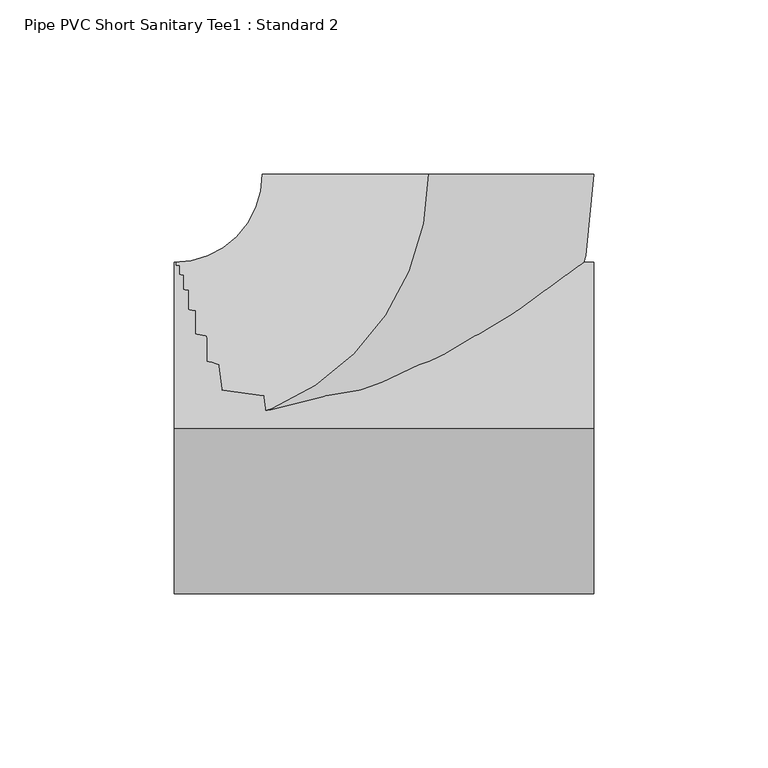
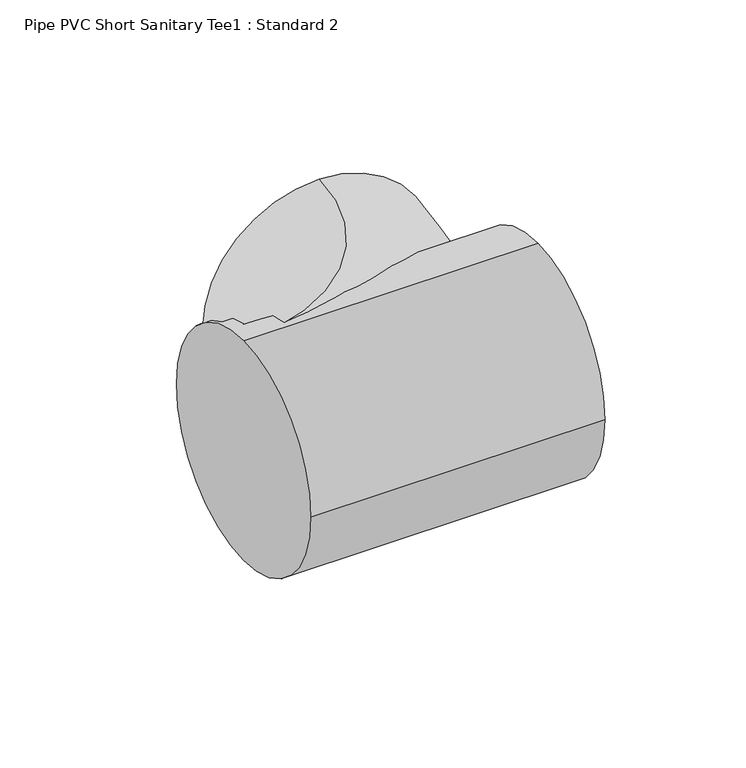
"""IFC4 building model written with IfcOpenShell, lengths in millimetres: pipe fitting geometry, Pipe PVC Short Sanitary Tee1 : Standard 2."""

from ifc_helpers import new_model, si_unit, point, frame, origin, origin_2d, place, context, project, spatial, circle_curve, ellipse_curve, trimmed, segment, composite_curve, outline, extrude, source, transform, mapped, element, save
from ifc_brep_helpers import plane_surface, revolved_surface, advanced_brep


def pipe_pvc_short_sanitary_tee1_standard_2_ace3c86c(model_context):
    return source(origin(), model_context, "Body", "SolidModel", [
        extrude(outline(composite_curve([segment(trimmed(circle_curve(origin_2d(), 47.625), [point((0.0, 47.625))], [point((47.625, 0.0))], False, "CARTESIAN"), True, "CONTINUOUS"), segment(trimmed(circle_curve(origin_2d(), 47.625), [point((47.625, 0.0))], [point((0.0, -47.625))], False, "CARTESIAN"), True, "CONTINUOUS"), segment(trimmed(circle_curve(origin_2d(), 47.625), [point((0.0, -47.625))], [point((-47.625, 0.0))], False, "CARTESIAN"), True, "CONTINUOUS"), segment(trimmed(circle_curve(origin_2d(), 47.625), [point((-47.625, 0.0))], [point((0.0, 47.625))], False, "CARTESIAN"), True, "CONTINUOUS")], self_intersect=False)), frame((-73.017082, 0.0, 0.0), z_axis=(1.0, 0.0, 0.0), x_axis=(0.0, 1.0, 0.0)), (0.0, 0.0, 1.0), 120.6499996),
        advanced_brep(
        [(-73.017082, 0.0, 47.625), (-73.017082, 47.625, 0.0), (-73.017082, 0.0, -47.625), (-73.017082, -47.625, 0.0), (0.0079176, 73.0170816, 47.625), (47.6329173, 73.0119174, 0.0), (0.0079176, 73.0170816, -47.625), (-47.6170822, 73.0222458, 0.0)],
        [
            (0, 1, circle_curve(frame((-73.017082, 0.0, 0.0), z_axis=(-1.0, 0.0, 0.0), x_axis=(0.0, 1.0, 0.0)), 47.625)),
            (1, 2, circle_curve(frame((-73.017082, 0.0, 0.0), z_axis=(-1.0, 0.0, 0.0), x_axis=(0.0, 1.0, 0.0)), 47.625)),
            (2, 3, circle_curve(frame((-73.017082, 0.0, 0.0), z_axis=(-1.0, 0.0, 0.0), x_axis=(0.0, 1.0, 0.0)), 47.625)),
            (3, 0, circle_curve(frame((-73.017082, 0.0, 0.0), z_axis=(-1.0, 0.0, 0.0), x_axis=(0.0, 1.0, 0.0)), 47.625)),
            (4, 5, circle_curve(frame((0.0079176, 73.0170816, 0.0), z_axis=(0.00010843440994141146, 0.9999999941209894, 0.0), x_axis=(-0.9999999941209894, 0.00010843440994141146, 0.0)), 47.625)),
            (5, 6, circle_curve(frame((0.0079176, 73.0170816, 0.0), z_axis=(0.00010843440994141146, 0.9999999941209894, 0.0), x_axis=(-0.9999999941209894, 0.00010843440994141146, 0.0)), 47.625)),
            (6, 7, circle_curve(frame((0.0079176, 73.0170816, 0.0), z_axis=(0.00010843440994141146, 0.9999999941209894, 0.0), x_axis=(-0.9999999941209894, 0.00010843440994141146, 0.0)), 47.625)),
            (7, 4, circle_curve(frame((0.0079176, 73.0170816, 0.0), z_axis=(0.00010843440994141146, 0.9999999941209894, 0.0), x_axis=(-0.9999999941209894, 0.00010843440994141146, 0.0)), 47.625)),
            (7, 1, circle_curve(frame((-73.017082, 73.025, 0.0), z_axis=(0.0, 0.0, -1.0), x_axis=(0.0, -1.0, 0.0)), 25.4)),
            (0, 4, circle_curve(frame((-73.017082, 73.025, 47.625), z_axis=(0.0, 0.0, 1.0), x_axis=(0.0, -1.0, 0.0)), 73.025)),
            (6, 2, circle_curve(frame((-73.017082, 73.025, -47.625), z_axis=(0.0, 0.0, -1.0), x_axis=(0.0, -1.0, 0.0)), 73.025)),
            (5, 3, circle_curve(frame((-73.017082, 73.025, 0.0), z_axis=(0.0, 0.0, -1.0), x_axis=(0.0, -1.0, 0.0)), 120.65)),
        ],
        [
            plane_surface(frame((-73.017082, 0.0, 0.0), z_axis=(-1.0, 0.0, 0.0), x_axis=(0.0, 0.0, 1.0))),
            plane_surface(frame((0.0079176, 73.0170816, 0.0), z_axis=(0.00010843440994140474, 0.9999999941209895, 0.0), x_axis=(0.0, 0.0, 1.0))),
            revolved_surface(trimmed(ellipse_curve(frame((-73.017082, 0.0, 0.0), z_axis=(-1.0, 0.0, 0.0), x_axis=(0.0, 1.0, 0.0)), 47.625, 47.625), [point((-73.017082, 0.0, 47.625))], [point((-73.017082, 47.625, 0.0))], True, "CARTESIAN"), (-73.017082, 73.025, 0.0), (0.0, 0.0, 1.0)),
            revolved_surface(trimmed(ellipse_curve(frame((-73.017082, 0.0, 0.0), z_axis=(-1.0, 0.0, 0.0), x_axis=(0.0, 1.0, 0.0)), 47.625, 47.625), [point((-73.017082, 47.625, 0.0))], [point((-73.017082, 0.0, -47.625))], True, "CARTESIAN"), (-73.017082, 73.025, 0.0), (0.0, 0.0, 1.0)),
            revolved_surface(trimmed(ellipse_curve(frame((-73.017082, 0.0, 0.0), z_axis=(-1.0, 0.0, 0.0), x_axis=(0.0, 1.0, 0.0)), 47.625, 47.625), [point((-73.017082, 0.0, -47.625))], [point((-73.017082, -47.625, 0.0))], True, "CARTESIAN"), (-73.017082, 73.025, 0.0), (0.0, 0.0, 1.0)),
            revolved_surface(trimmed(ellipse_curve(frame((-73.017082, 0.0, 0.0), z_axis=(-1.0, 0.0, 0.0), x_axis=(0.0, 1.0, 0.0)), 47.625, 47.625), [point((-73.017082, -47.625, 0.0))], [point((-73.017082, 0.0, 47.625))], True, "CARTESIAN"), (-73.017082, 73.025, 0.0), (0.0, 0.0, 1.0)),
        ],
        [
            (0, [[1, 2, 3, 4]]),
            (1, [[5, 6, 7, 8]]),
            (2, [[9, -1, 10, -8]]),
            (3, [[11, -2, -9, -7]]),
            (4, [[12, -3, -11, -6]]),
            (5, [[-10, -4, -12, -5]]),
        ],
    ),
        advanced_brep(
        [(-73.017082, 0.0, 47.625), (-73.017082, 47.625, 0.0), (-73.017082, 0.0, -47.625), (-73.017082, -47.625, 0.0), (0.0079176, 73.0170816, 47.625), (47.6329173, 73.0119174, 0.0), (0.0079176, 73.0170816, -47.625), (-47.6170822, 73.0222458, 0.0)],
        [
            (0, 1, circle_curve(frame((-73.017082, 0.0, 0.0), z_axis=(-1.0, 0.0, 0.0), x_axis=(0.0, 1.0, 0.0)), 47.625)),
            (1, 2, circle_curve(frame((-73.017082, 0.0, 0.0), z_axis=(-1.0, 0.0, 0.0), x_axis=(0.0, 1.0, 0.0)), 47.625)),
            (2, 3, circle_curve(frame((-73.017082, 0.0, 0.0), z_axis=(-1.0, 0.0, 0.0), x_axis=(0.0, 1.0, 0.0)), 47.625)),
            (3, 0, circle_curve(frame((-73.017082, 0.0, 0.0), z_axis=(-1.0, 0.0, 0.0), x_axis=(0.0, 1.0, 0.0)), 47.625)),
            (4, 5, circle_curve(frame((0.0079176, 73.0170816, 0.0), z_axis=(0.00010843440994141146, 0.9999999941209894, 0.0), x_axis=(-0.9999999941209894, 0.00010843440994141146, 0.0)), 47.625)),
            (5, 6, circle_curve(frame((0.0079176, 73.0170816, 0.0), z_axis=(0.00010843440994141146, 0.9999999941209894, 0.0), x_axis=(-0.9999999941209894, 0.00010843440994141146, 0.0)), 47.625)),
            (6, 7, circle_curve(frame((0.0079176, 73.0170816, 0.0), z_axis=(0.00010843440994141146, 0.9999999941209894, 0.0), x_axis=(-0.9999999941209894, 0.00010843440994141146, 0.0)), 47.625)),
            (7, 4, circle_curve(frame((0.0079176, 73.0170816, 0.0), z_axis=(0.00010843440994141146, 0.9999999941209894, 0.0), x_axis=(-0.9999999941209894, 0.00010843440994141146, 0.0)), 47.625)),
            (7, 1, circle_curve(frame((-73.017082, 73.025, 0.0), z_axis=(0.0, 0.0, -1.0), x_axis=(0.0, -1.0, 0.0)), 25.4)),
            (0, 4, circle_curve(frame((-73.017082, 73.025, 47.625), z_axis=(0.0, 0.0, 1.0), x_axis=(0.0, -1.0, 0.0)), 73.025)),
            (6, 2, circle_curve(frame((-73.017082, 73.025, -47.625), z_axis=(0.0, 0.0, -1.0), x_axis=(0.0, -1.0, 0.0)), 73.025)),
            (5, 3, circle_curve(frame((-73.017082, 73.025, 0.0), z_axis=(0.0, 0.0, -1.0), x_axis=(0.0, -1.0, 0.0)), 120.65)),
        ],
        [
            plane_surface(frame((-73.017082, 0.0, 0.0), z_axis=(-1.0, 0.0, 0.0), x_axis=(0.0, 0.0, 1.0))),
            plane_surface(frame((0.0079176, 73.0170816, 0.0), z_axis=(0.00010843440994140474, 0.9999999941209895, 0.0), x_axis=(0.0, 0.0, 1.0))),
            revolved_surface(trimmed(ellipse_curve(frame((-73.017082, 0.0, 0.0), z_axis=(-1.0, 0.0, 0.0), x_axis=(0.0, 1.0, 0.0)), 47.625, 47.625), [point((-73.017082, 0.0, 47.625))], [point((-73.017082, 47.625, 0.0))], True, "CARTESIAN"), (-73.017082, 73.025, 0.0), (0.0, 0.0, 1.0)),
            revolved_surface(trimmed(ellipse_curve(frame((-73.017082, 0.0, 0.0), z_axis=(-1.0, 0.0, 0.0), x_axis=(0.0, 1.0, 0.0)), 47.625, 47.625), [point((-73.017082, 47.625, 0.0))], [point((-73.017082, 0.0, -47.625))], True, "CARTESIAN"), (-73.017082, 73.025, 0.0), (0.0, 0.0, 1.0)),
            revolved_surface(trimmed(ellipse_curve(frame((-73.017082, 0.0, 0.0), z_axis=(-1.0, 0.0, 0.0), x_axis=(0.0, 1.0, 0.0)), 47.625, 47.625), [point((-73.017082, 0.0, -47.625))], [point((-73.017082, -47.625, 0.0))], True, "CARTESIAN"), (-73.017082, 73.025, 0.0), (0.0, 0.0, 1.0)),
            revolved_surface(trimmed(ellipse_curve(frame((-73.017082, 0.0, 0.0), z_axis=(-1.0, 0.0, 0.0), x_axis=(0.0, 1.0, 0.0)), 47.625, 47.625), [point((-73.017082, -47.625, 0.0))], [point((-73.017082, 0.0, 47.625))], True, "CARTESIAN"), (-73.017082, 73.025, 0.0), (0.0, 0.0, 1.0)),
        ],
        [
            (0, [[1, 2, 3, 4]]),
            (1, [[5, 6, 7, 8]]),
            (2, [[9, -1, 10, -8]]),
            (3, [[11, -2, -9, -7]]),
            (4, [[12, -3, -11, -6]]),
            (5, [[-10, -4, -12, -5]]),
        ],
    ),
        extrude(outline(composite_curve([segment(trimmed(circle_curve(origin_2d(), 47.625), [point((0.0, 47.625))], [point((47.625, 0.0))], False, "CARTESIAN"), True, "CONTINUOUS"), segment(trimmed(circle_curve(origin_2d(), 47.625), [point((47.625, 0.0))], [point((0.0, -47.625))], False, "CARTESIAN"), True, "CONTINUOUS"), segment(trimmed(circle_curve(origin_2d(), 47.625), [point((0.0, -47.625))], [point((-47.625, 0.0))], False, "CARTESIAN"), True, "CONTINUOUS"), segment(trimmed(circle_curve(origin_2d(), 47.625), [point((-47.625, 0.0))], [point((0.0, 47.625))], False, "CARTESIAN"), True, "CONTINUOUS")], self_intersect=False)), frame((-73.017082, 0.0, 0.0), z_axis=(1.0, 0.0, 0.0), x_axis=(0.0, 1.0, 0.0)), (0.0, 0.0, 1.0), 120.6499996),
    ])


if __name__ == "__main__":
    model = new_model("IFC4")
    model_context = context("Model", 3, world=origin())
    ifc_project = project(units=[si_unit("LENGTHUNIT", "METRE", prefix="MILLI")], contexts=[model_context])
    site = spatial("IfcSite", under=ifc_project)
    building = spatial("IfcBuilding", under=site)
    placement = place(None, origin())
    pipe_pvc_short_sanitary_tee1_standard_2_shape = pipe_pvc_short_sanitary_tee1_standard_2_ace3c86c(model_context)
    element("IfcPipeFitting", 1, ObjectType="Pipe PVC Short Sanitary Tee1 : Standard 2", at=placement, inside=building, context=model_context, shape_type="MappedRepresentation", body=[
        mapped(pipe_pvc_short_sanitary_tee1_standard_2_shape, transform((0.0, 0.0, 0.0), x_axis=(1.0, 0.0, 0.0), y_axis=(0.0, 1.0, 0.0), z_axis=(0.0, 0.0, 1.0))),
    ])
    save(model, "model.ifc")
